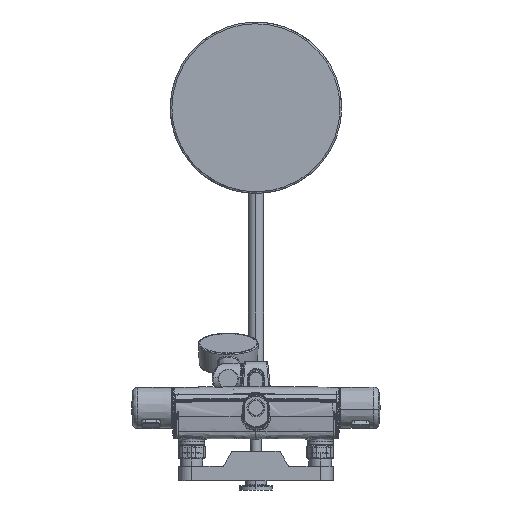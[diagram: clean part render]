
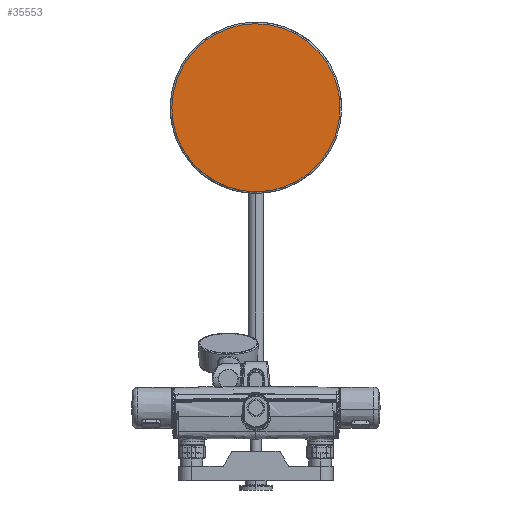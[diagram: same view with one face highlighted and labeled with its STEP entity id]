
A CAD part, front view. The second image highlights one B-rep face of the part: STEP entity #35553.
In plain terms, the highlighted planar face has unit normal (0, -1, 0).
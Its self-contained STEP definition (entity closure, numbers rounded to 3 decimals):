
#272 = CARTESIAN_POINT ( 'NONE',  ( 98., 984.9, 343.586 ) ) ;
#484 = CARTESIAN_POINT ( 'NONE',  ( -64.761, 984.9, 276.168 ) ) ;
#614 = ORIENTED_EDGE ( 'NONE', *, *, #48311, .F. ) ;
#694 = CARTESIAN_POINT ( 'NONE',  ( -92.995, 984.9, 381.577 ) ) ;
#911 = CARTESIAN_POINT ( 'NONE',  ( -59.779, 984.9, 427.921 ) ) ;
#2200 = DIRECTION ( 'NONE',  ( 1., 0., 0. ) ) ;
#2535 = CARTESIAN_POINT ( 'NONE',  ( -97.368, 984.9, 337.172 ) ) ;
#4812 = CARTESIAN_POINT ( 'NONE',  ( -12.828, 984.9, 447.368 ) ) ;
#5018 = CARTESIAN_POINT ( 'NONE',  ( 49.113, 984.9, 264.952 ) ) ;
#5227 = CARTESIAN_POINT ( 'NONE',  ( -43.429, 984.9, 261.914 ) ) ;
#5228 = CARTESIAN_POINT ( 'NONE',  ( -77.921, 984.9, 409.779 ) ) ;
#5634 = CARTESIAN_POINT ( 'NONE',  ( -43.429, 984.9, 438.086 ) ) ;
#6276 = CARTESIAN_POINT ( 'NONE',  ( 12.828, 984.9, 252.632 ) ) ;
#6970 = VERTEX_POINT ( 'NONE', #21289 ) ;
#7105 = PLANE ( 'NONE',  #25369 ) ;
#7428 = CARTESIAN_POINT ( 'NONE',  ( -94.866, 984.9, 324.59 ) ) ;
#7917 = EDGE_CURVE ( 'NONE', #6970, #28715, #24928, .T. ) ;
#9522 = CARTESIAN_POINT ( 'NONE',  ( 88.086, 984.9, 306.571 ) ) ;
#9734 = CARTESIAN_POINT ( 'NONE',  ( 25.41, 984.9, 255.134 ) ) ;
#9937 = CARTESIAN_POINT ( 'NONE',  ( -77.921, 984.9, 290.221 ) ) ;
#10350 = CARTESIAN_POINT ( 'NONE',  ( -97.368, 984.9, 362.828 ) ) ;
#10710 = CARTESIAN_POINT ( 'NONE',  ( 98., 984.9, 350. ) ) ;
#11760 = CARTESIAN_POINT ( 'NONE',  ( -98., 984.9, 350. ) ) ;
#14008 = CARTESIAN_POINT ( 'NONE',  ( -88.086, 984.9, 306.571 ) ) ;
#14216 = CARTESIAN_POINT ( 'NONE',  ( -6.414, 984.9, 448. ) ) ;
#14420 = CARTESIAN_POINT ( 'NONE',  ( 98., 984.9, 350. ) ) ;
#14635 = CARTESIAN_POINT ( 'NONE',  ( 43.429, 984.9, 438.086 ) ) ;
#14760 = EDGE_LOOP ( 'NONE', ( #614, #57769 ) ) ;
#15692 = CARTESIAN_POINT ( 'NONE',  ( 77.921, 984.9, 290.221 ) ) ;
#15871 = CARTESIAN_POINT ( 'NONE',  ( 94.866, 984.9, 375.41 ) ) ;
#18735 = CARTESIAN_POINT ( 'NONE',  ( -49.113, 984.9, 264.952 ) ) ;
#18946 = CARTESIAN_POINT ( 'NONE',  ( 85.048, 984.9, 399.113 ) ) ;
#19155 = CARTESIAN_POINT ( 'NONE',  ( -12.828, 984.9, 252.632 ) ) ;
#19366 = CARTESIAN_POINT ( 'NONE',  ( 64.761, 984.9, 276.168 ) ) ;
#19371 = CARTESIAN_POINT ( 'NONE',  ( 88.086, 984.9, 393.429 ) ) ;
#19771 = CARTESIAN_POINT ( 'NONE',  ( 59.779, 984.9, 427.921 ) ) ;
#20265 = CARTESIAN_POINT ( 'NONE',  ( 0., 984.9, 350. ) ) ;
#20395 = CARTESIAN_POINT ( 'NONE',  ( 98., 984.9, 356.414 ) ) ;
#21289 = CARTESIAN_POINT ( 'NONE',  ( -98., 984.9, 350. ) ) ;
#23910 = CARTESIAN_POINT ( 'NONE',  ( 31.577, 984.9, 257.005 ) ) ;
#24928 = B_SPLINE_CURVE_WITH_KNOTS ( 'NONE', 3,
 ( #33029, #52043, #10350, #29110, #694, #56973, #43025, #5228, #57177, #33838, #911, #38141, #5634, #28487, #38550, #4812, #14216, #52256, #43226, #42818, #47950, #14635, #56541, #19771, #47532, #33228, #47105, #18946, #19371, #51846, #15871, #29926, #20395, #29517 ),
 .UNSPECIFIED., .F., .F.,
 ( 4, 2, 2, 2, 2, 2, 2, 2, 2, 2, 2, 2, 2, 2, 2, 2, 4 ),
 ( 0.5, 0.531, 0.563, 0.594, 0.625, 0.656, 0.688, 0.719, 0.75, 0.781, 0.813, 0.844, 0.875, 0.906, 0.938, 0.969, 1. ),
 .UNSPECIFIED. ) ;
#25190 = CARTESIAN_POINT ( 'NONE',  ( -59.779, 984.9, 272.079 ) ) ;
#25369 = AXIS2_PLACEMENT_3D ( 'NONE', #20265, #58233, #2200 ) ;
#28487 = CARTESIAN_POINT ( 'NONE',  ( -31.577, 984.9, 442.995 ) ) ;
#28693 = CARTESIAN_POINT ( 'NONE',  ( -31.577, 984.9, 257.005 ) ) ;
#28715 = VERTEX_POINT ( 'NONE', #10710 ) ;
#29110 = CARTESIAN_POINT ( 'NONE',  ( -94.866, 984.9, 375.41 ) ) ;
#29517 = CARTESIAN_POINT ( 'NONE',  ( 98., 984.9, 350. ) ) ;
#29926 = CARTESIAN_POINT ( 'NONE',  ( 97.368, 984.9, 362.828 ) ) ;
#30753 = CARTESIAN_POINT ( 'NONE',  ( -98., 984.9, 343.586 ) ) ;
#33027 = CARTESIAN_POINT ( 'NONE',  ( 94.866, 984.9, 324.59 ) ) ;
#33029 = CARTESIAN_POINT ( 'NONE',  ( -98., 984.9, 350. ) ) ;
#33225 = CARTESIAN_POINT ( 'NONE',  ( 73.832, 984.9, 285.239 ) ) ;
#33228 = CARTESIAN_POINT ( 'NONE',  ( 73.832, 984.9, 414.761 ) ) ;
#33779 = FACE_OUTER_BOUND ( 'NONE', #14760, .T. ) ;
#33838 = CARTESIAN_POINT ( 'NONE',  ( -64.761, 984.9, 423.832 ) ) ;
#34473 = CARTESIAN_POINT ( 'NONE',  ( 59.779, 984.9, 272.079 ) ) ;
#35553 = ADVANCED_FACE ( 'NONE', ( #33779 ), #7105, .F. ) ;
#38141 = CARTESIAN_POINT ( 'NONE',  ( -49.113, 984.9, 435.048 ) ) ;
#38261 = B_SPLINE_CURVE_WITH_KNOTS ( 'NONE', 3,
 ( #14420, #272, #47318, #33027, #42193, #9522, #42394, #15692, #33225, #19366, #34473, #5018, #48568, #23910, #9734, #6276, #47101, #53288, #19155, #56753, #28693, #5227, #18735, #25190, #484, #57983, #9937, #39387, #14008, #46887, #7428, #2535, #30753, #11760 ),
 .UNSPECIFIED., .F., .F.,
 ( 4, 2, 2, 2, 2, 2, 2, 2, 2, 2, 2, 2, 2, 2, 2, 2, 4 ),
 ( 0., 0.031, 0.063, 0.094, 0.125, 0.156, 0.188, 0.219, 0.25, 0.281, 0.312, 0.344, 0.375, 0.406, 0.437, 0.469, 0.5 ),
 .UNSPECIFIED. ) ;
#38550 = CARTESIAN_POINT ( 'NONE',  ( -25.41, 984.9, 444.866 ) ) ;
#39387 = CARTESIAN_POINT ( 'NONE',  ( -85.048, 984.9, 300.887 ) ) ;
#42193 = CARTESIAN_POINT ( 'NONE',  ( 92.995, 984.9, 318.423 ) ) ;
#42394 = CARTESIAN_POINT ( 'NONE',  ( 85.048, 984.9, 300.887 ) ) ;
#42818 = CARTESIAN_POINT ( 'NONE',  ( 25.41, 984.9, 444.866 ) ) ;
#43025 = CARTESIAN_POINT ( 'NONE',  ( -85.048, 984.9, 399.113 ) ) ;
#43226 = CARTESIAN_POINT ( 'NONE',  ( 12.828, 984.9, 447.368 ) ) ;
#46887 = CARTESIAN_POINT ( 'NONE',  ( -92.995, 984.9, 318.423 ) ) ;
#47101 = CARTESIAN_POINT ( 'NONE',  ( 6.414, 984.9, 252. ) ) ;
#47105 = CARTESIAN_POINT ( 'NONE',  ( 77.921, 984.9, 409.779 ) ) ;
#47318 = CARTESIAN_POINT ( 'NONE',  ( 97.368, 984.9, 337.172 ) ) ;
#47532 = CARTESIAN_POINT ( 'NONE',  ( 64.761, 984.9, 423.832 ) ) ;
#47950 = CARTESIAN_POINT ( 'NONE',  ( 31.577, 984.9, 442.995 ) ) ;
#48311 = EDGE_CURVE ( 'NONE', #28715, #6970, #38261, .T. ) ;
#48568 = CARTESIAN_POINT ( 'NONE',  ( 43.429, 984.9, 261.914 ) ) ;
#51846 = CARTESIAN_POINT ( 'NONE',  ( 92.995, 984.9, 381.577 ) ) ;
#52043 = CARTESIAN_POINT ( 'NONE',  ( -98., 984.9, 356.414 ) ) ;
#52256 = CARTESIAN_POINT ( 'NONE',  ( 6.414, 984.9, 448. ) ) ;
#53288 = CARTESIAN_POINT ( 'NONE',  ( -6.414, 984.9, 252. ) ) ;
#56541 = CARTESIAN_POINT ( 'NONE',  ( 49.113, 984.9, 435.048 ) ) ;
#56753 = CARTESIAN_POINT ( 'NONE',  ( -25.41, 984.9, 255.134 ) ) ;
#56973 = CARTESIAN_POINT ( 'NONE',  ( -88.086, 984.9, 393.429 ) ) ;
#57177 = CARTESIAN_POINT ( 'NONE',  ( -73.832, 984.9, 414.761 ) ) ;
#57769 = ORIENTED_EDGE ( 'NONE', *, *, #7917, .F. ) ;
#57983 = CARTESIAN_POINT ( 'NONE',  ( -73.832, 984.9, 285.239 ) ) ;
#58233 = DIRECTION ( 'NONE',  ( 0., 1., 0. ) ) ;
